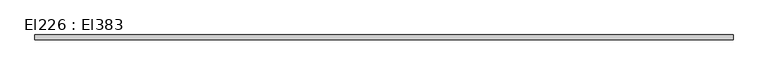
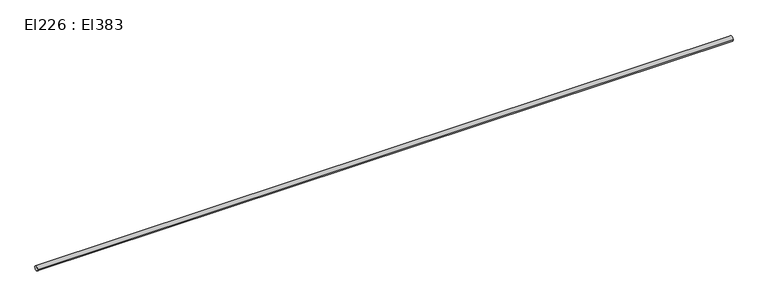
"""IFC4 building model written with IfcOpenShell, lengths in millimetres: cable carrier segment geometry, El226 : El383."""

from ifc_helpers import new_model, si_unit, point, frame, frame_2d, origin, place, context, project, spatial, circle_curve, trimmed, segment, composite_curve, outline, extrude, source, transform, mapped, element, save


def el226_el383_29e7ba33(model_context):
    return source(origin(), model_context, "Body", "SweptSolid", [
        extrude(outline(composite_curve([segment(trimmed(circle_curve(frame_2d((13955.0121745, 1500.0)), 9.5), [point((13945.5121745, 1500.0))], [point((13964.5121745, 1500.0))], False, "CARTESIAN"), True, "CONTINUOUS"), segment(trimmed(circle_curve(frame_2d((13955.0121745, 1500.0)), 9.5), [point((13964.5121745, 1500.0))], [point((13945.5121745, 1500.0))], False, "CARTESIAN"), True, "CONTINUOUS")], self_intersect=False)), frame((5038.5446511, 0.0, 0.0), z_axis=(1.0, 0.0, 0.0), x_axis=(0.0, 1.0, 0.0)), (0.0, 0.0, 1.0), 2795.04),
    ])


if __name__ == "__main__":
    model = new_model("IFC4")
    model_context = context("Model", 3, world=origin())
    ifc_project = project(units=[si_unit("LENGTHUNIT", "METRE", prefix="MILLI")], contexts=[model_context])
    site = spatial("IfcSite", under=ifc_project)
    building = spatial("IfcBuilding", under=site)
    placement = place(None, origin())
    el226_el383_shape = el226_el383_29e7ba33(model_context)
    element("IfcCableCarrierSegment", 1, ObjectType="El226 : El383", at=placement, inside=building, context=model_context, shape_type="MappedRepresentation", body=[
        mapped(el226_el383_shape, transform((0.0, 0.0, 0.0), x_axis=(1.0, 0.0, 0.0), y_axis=(0.0, 1.0, 0.0), z_axis=(0.0, 0.0, 1.0))),
    ])
    save(model, "model.ifc")
